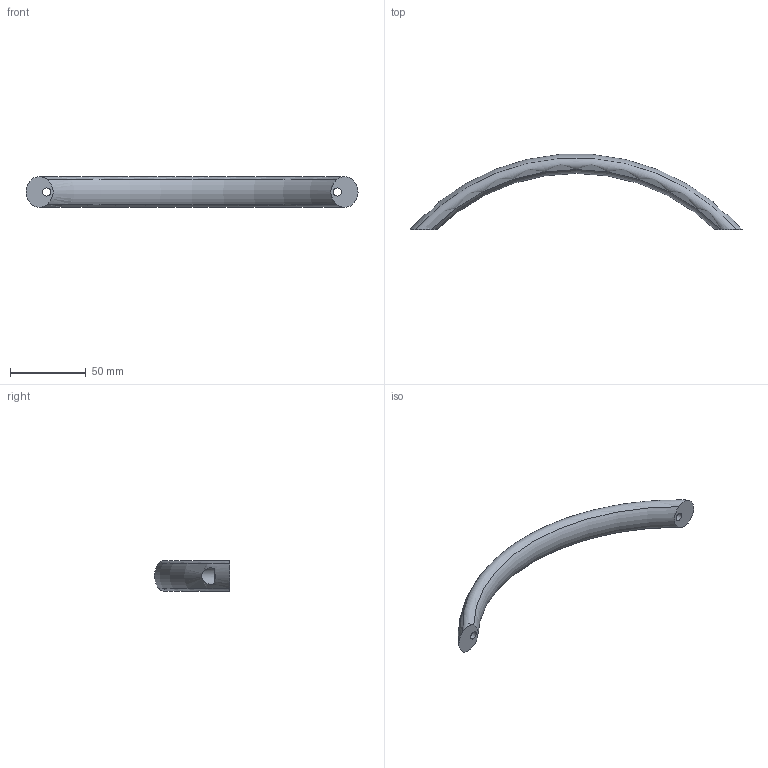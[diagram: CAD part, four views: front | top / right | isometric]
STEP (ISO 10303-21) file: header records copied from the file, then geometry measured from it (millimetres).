
FILE_DESCRIPTION( ( 'STEP AP203' ), '1' );
FILE_NAME( 'C:/Temp/Ganter_Step_05_03_2020/data/1_2/gn565_9/Stainless Steel-Arch handle GN 565.9-20-192-B-MT.stp', '2020-03-05T10:12:29', ( 'License CC BY-ND 4.0' ), ( 'CADENAS' ), ' ', 'PARTsolutions', ' ' );
FILE_SCHEMA( ( 'CONFIG_CONTROL_DESIGN' ) );
Length unit declared in the file: millimetre
Products named in the file (1): _Stainless Steel-Arch handle GN 565.9-20-192-B-MT
Bounding box: 219.29 x 49.57 x 20 mm (x, y, z)
Volume: 44621.2 mm3; surface area: 12956.4 mm2
Topology: 1 solids, 1 shells, 16 faces, 36 edges, 24 vertices
Faces by surface type: plane 6, cylinder 6, torus 4
Full cylindrical faces by diameter (mm): 5.3 x2, 9.4 x2
Entity records: 774 total; most frequent: CARTESIAN_POINT 407, DIRECTION 62, ORIENTED_EDGE 60, AXIS2_PLACEMENT_3D 31, EDGE_CURVE 30, EDGE_LOOP 26, VERTEX_POINT 22, FACE_OUTER_BOUND 20
